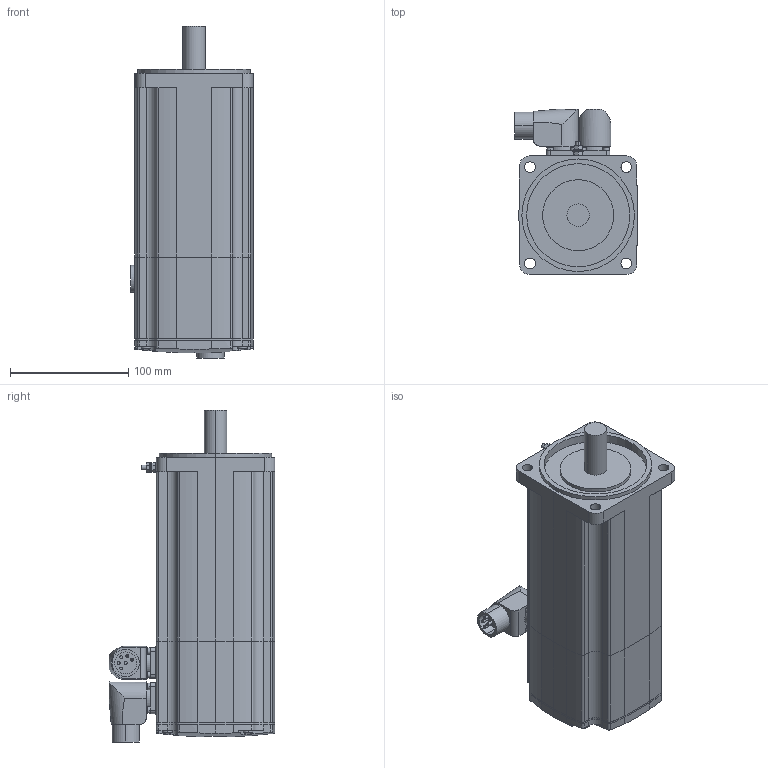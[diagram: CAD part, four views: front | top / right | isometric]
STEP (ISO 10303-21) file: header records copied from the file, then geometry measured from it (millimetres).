
FILE_DESCRIPTION (( 'STEP AP214' ), '1' );
FILE_NAME ('SH31002x0xF2100.STEP', '2013-11-29T09:08:15', ( 'Windows User' ), ( 'Schneider-Electric' ), 'SwSTEP 2.0', 'SolidWorks 2010', '' );
FILE_SCHEMA (( 'AUTOMOTIVE_DESIGN' ));
Length unit declared in the file: millimetre
Products named in the file (8): 1-100005292_DECKEL SH3-100X-X_VM0_Deckel SH3-100x; 1-100010978_K-FLACHDICHTUNG BMH-MH3-100_000; 1-100008863_LAGERSCHILD-SH3-100X-F_VM0_Lagerschild-SH3-100x-F; 1-100008871_TOPFGEHÄUSE-SH3-100X_VM0_TOPFGEHÄUSE BSH1002-F ohne Passfeder; 1-100011011_K-ERDUNGSBOLZEN M4_000; K-POWER-CONINVERS-ABGEWIN_POWER-CONINVERS-ABGEWINKELT_000_mit Bremse; K-ENCODER-CONINVERS-ABGEW_ENCODER-CONINVERS-ABGEWINKELT_000_Single- MultiTurn; SH31002x0xF2100
Assembly tree (7 placements, depth 2):
  SH31002x0xF2100
    1-100010978_K-FLACHDICHTUNG BMH-MH3-100_000
    1-100005292_DECKEL SH3-100X-X_VM0_Deckel SH3-100x
    1-100008863_LAGERSCHILD-SH3-100X-F_VM0_Lagerschild-SH3-100x-F
    1-100008871_TOPFGEHÄUSE-SH3-100X_VM0_TOPFGEHÄUSE BSH1002-F ohne Passfeder
    1-100011011_K-ERDUNGSBOLZEN M4_000
    K-POWER-CONINVERS-ABGEWIN_POWER-CONINVERS-ABGEWINKELT_000_mit Bremse
    K-ENCODER-CONINVERS-ABGEW_ENCODER-CONINVERS-ABGEWINKELT_000_Single- MultiTurn
Bounding box: 103.65 x 139.9 x 280.25 mm (x, y, z)
Volume: 2110754 mm3; surface area: 181791.7 mm2
Topology: 7 solids, 7 shells, 455 faces, 1121 edges, 734 vertices
Faces by surface type: cylinder 235, plane 196, torus 16, sphere 4, bspline 4
Entity records: 15044 total; most frequent: CARTESIAN_POINT 3534, DIRECTION 2510, ORIENTED_EDGE 2242, EDGE_CURVE 1121, AXIS2_PLACEMENT_3D 978, VERTEX_POINT 734, LINE 554, VECTOR 554
